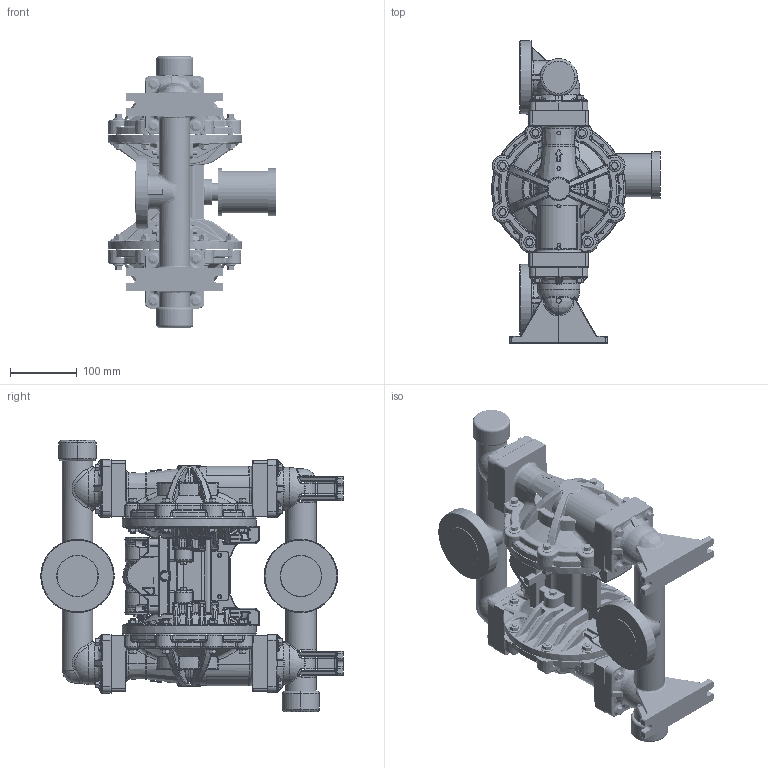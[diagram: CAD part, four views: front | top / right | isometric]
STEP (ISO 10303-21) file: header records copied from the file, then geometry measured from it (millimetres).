
FILE_DESCRIPTION((''),'2;1');
FILE_NAME('649000-EN-U_PRT','2023-12-18T08:51:11',('qtmwp1'),(''),'CREO PARAMETRIC BY PTC INC, 2021072','CREO PARAMETRIC BY PTC INC, 2021072','');
FILE_SCHEMA(('CONFIG_CONTROL_DESIGN'));
Products named in the file (1): 649000-EN-U_PRT
Bounding box: 252.87 x 453.3 x 406.4 mm (x, y, z)
Surface area: 908647.7 mm2 (no closed solid volume)
Topology: 0 solids, 158 shells, 3803 faces, 12570 edges, 8203 vertices
Faces by surface type: plane 967, bspline 960, cylinder 912, cone 593, torus 301, sphere 62, extrusion 8
Entity records: 210781 total; most frequent: CARTESIAN_POINT 117363, ORIENTED_EDGE 19545, DIRECTION 16424, EDGE_CURVE 12570, VERTEX_POINT 8203, AXIS2_PLACEMENT_3D 6710, B_SPLINE_CURVE_WITH_KNOTS 5707, CIRCLE 3875
